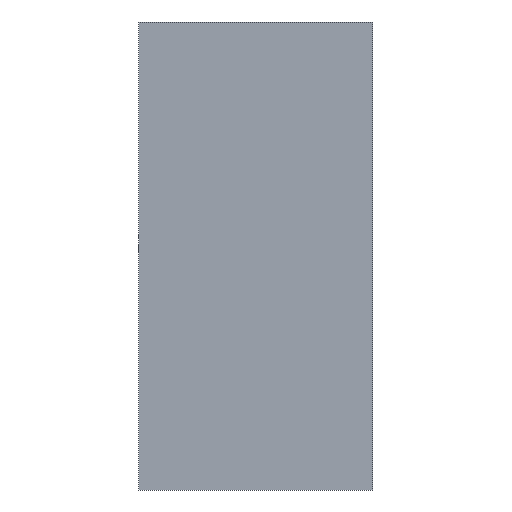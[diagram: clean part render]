
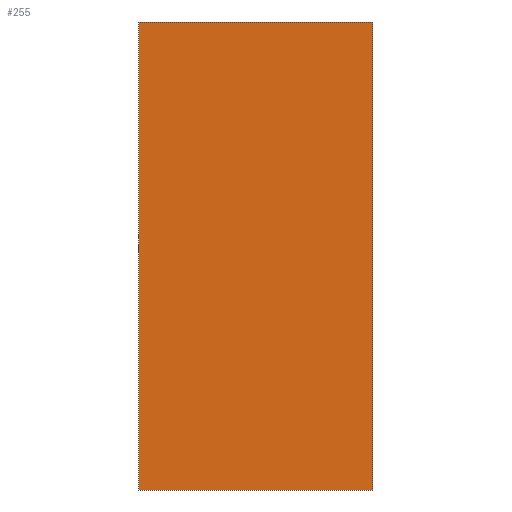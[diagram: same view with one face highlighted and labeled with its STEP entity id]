
A CAD part, front view. The second image highlights one B-rep face of the part: STEP entity #255.
In plain terms, the highlighted planar face has unit normal (0, -1, 0).
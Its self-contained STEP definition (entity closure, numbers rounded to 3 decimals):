
#39 = EDGE_CURVE('',#40,#42,#44,.T.);
#40 = VERTEX_POINT('',#41);
#41 = CARTESIAN_POINT('',(-19.,-32.3,24.5));
#42 = VERTEX_POINT('',#43);
#43 = CARTESIAN_POINT('',(-19.,-32.3,28.5));
#44 = SURFACE_CURVE('',#45,(#49,#61),.PCURVE_S1.);
#45 = LINE('',#46,#47);
#46 = CARTESIAN_POINT('',(-19.,-32.3,24.5));
#47 = VECTOR('',#48,1.);
#48 = DIRECTION('',(0.,0.,1.));
#49 = PCURVE('',#50,#55);
#50 = PLANE('',#51);
#51 = AXIS2_PLACEMENT_3D('',#52,#53,#54);
#52 = CARTESIAN_POINT('',(-19.,-32.3,24.5));
#53 = DIRECTION('',(1.,0.,0.));
#54 = DIRECTION('',(0.,0.,1.));
#55 = DEFINITIONAL_REPRESENTATION('',(#56),#60);
#56 = LINE('',#57,#58);
#57 = CARTESIAN_POINT('',(0.,0.));
#58 = VECTOR('',#59,1.);
#59 = DIRECTION('',(1.,0.));
#60 = ( GEOMETRIC_REPRESENTATION_CONTEXT(2) 
PARAMETRIC_REPRESENTATION_CONTEXT() REPRESENTATION_CONTEXT('2D SPACE',''
  ) );
#61 = PCURVE('',#62,#67);
#62 = PLANE('',#63);
#63 = AXIS2_PLACEMENT_3D('',#64,#65,#66);
#64 = CARTESIAN_POINT('',(-19.,-32.3,24.5));
#65 = DIRECTION('',(0.,1.,0.));
#66 = DIRECTION('',(0.,0.,1.));
#67 = DEFINITIONAL_REPRESENTATION('',(#68),#72);
#68 = LINE('',#69,#70);
#69 = CARTESIAN_POINT('',(0.,0.));
#70 = VECTOR('',#71,1.);
#71 = DIRECTION('',(1.,0.));
#72 = ( GEOMETRIC_REPRESENTATION_CONTEXT(2) 
PARAMETRIC_REPRESENTATION_CONTEXT() REPRESENTATION_CONTEXT('2D SPACE',''
  ) );
#90 = PLANE('',#91);
#91 = AXIS2_PLACEMENT_3D('',#92,#93,#94);
#92 = CARTESIAN_POINT('',(-19.,-32.3,24.5));
#93 = DIRECTION('',(0.,0.,1.));
#94 = DIRECTION('',(1.,0.,0.));
#144 = PLANE('',#145);
#145 = AXIS2_PLACEMENT_3D('',#146,#147,#148);
#146 = CARTESIAN_POINT('',(-19.,-32.3,28.5));
#147 = DIRECTION('',(0.,0.,1.));
#148 = DIRECTION('',(1.,0.,0.));
#159 = EDGE_CURVE('',#160,#162,#164,.T.);
#160 = VERTEX_POINT('',#161);
#161 = CARTESIAN_POINT('',(-17.,-32.3,24.5));
#162 = VERTEX_POINT('',#163);
#163 = CARTESIAN_POINT('',(-17.,-32.3,28.5));
#164 = SURFACE_CURVE('',#165,(#169,#181),.PCURVE_S1.);
#165 = LINE('',#166,#167);
#166 = CARTESIAN_POINT('',(-17.,-32.3,24.5));
#167 = VECTOR('',#168,1.);
#168 = DIRECTION('',(0.,0.,1.));
#169 = PCURVE('',#170,#175);
#170 = PLANE('',#171);
#171 = AXIS2_PLACEMENT_3D('',#172,#173,#174);
#172 = CARTESIAN_POINT('',(-17.,-32.3,24.5));
#173 = DIRECTION('',(1.,0.,0.));
#174 = DIRECTION('',(0.,0.,1.));
#175 = DEFINITIONAL_REPRESENTATION('',(#176),#180);
#176 = LINE('',#177,#178);
#177 = CARTESIAN_POINT('',(0.,0.));
#178 = VECTOR('',#179,1.);
#179 = DIRECTION('',(1.,0.));
#180 = ( GEOMETRIC_REPRESENTATION_CONTEXT(2) 
PARAMETRIC_REPRESENTATION_CONTEXT() REPRESENTATION_CONTEXT('2D SPACE',''
  ) );
#181 = PCURVE('',#62,#182);
#182 = DEFINITIONAL_REPRESENTATION('',(#183),#187);
#183 = LINE('',#184,#185);
#184 = CARTESIAN_POINT('',(0.,2.));
#185 = VECTOR('',#186,1.);
#186 = DIRECTION('',(1.,0.));
#187 = ( GEOMETRIC_REPRESENTATION_CONTEXT(2) 
PARAMETRIC_REPRESENTATION_CONTEXT() REPRESENTATION_CONTEXT('2D SPACE',''
  ) );
#255 = ADVANCED_FACE('',(#256),#62,.F.);
#256 = FACE_BOUND('',#257,.F.);
#257 = EDGE_LOOP('',(#258,#279,#280,#301));
#258 = ORIENTED_EDGE('',*,*,#259,.F.);
#259 = EDGE_CURVE('',#40,#160,#260,.T.);
#260 = SURFACE_CURVE('',#261,(#265,#272),.PCURVE_S1.);
#261 = LINE('',#262,#263);
#262 = CARTESIAN_POINT('',(-19.,-32.3,24.5));
#263 = VECTOR('',#264,1.);
#264 = DIRECTION('',(1.,0.,0.));
#265 = PCURVE('',#62,#266);
#266 = DEFINITIONAL_REPRESENTATION('',(#267),#271);
#267 = LINE('',#268,#269);
#268 = CARTESIAN_POINT('',(0.,0.));
#269 = VECTOR('',#270,1.);
#270 = DIRECTION('',(0.,1.));
#271 = ( GEOMETRIC_REPRESENTATION_CONTEXT(2) 
PARAMETRIC_REPRESENTATION_CONTEXT() REPRESENTATION_CONTEXT('2D SPACE',''
  ) );
#272 = PCURVE('',#90,#273);
#273 = DEFINITIONAL_REPRESENTATION('',(#274),#278);
#274 = LINE('',#275,#276);
#275 = CARTESIAN_POINT('',(0.,0.));
#276 = VECTOR('',#277,1.);
#277 = DIRECTION('',(1.,0.));
#278 = ( GEOMETRIC_REPRESENTATION_CONTEXT(2) 
PARAMETRIC_REPRESENTATION_CONTEXT() REPRESENTATION_CONTEXT('2D SPACE',''
  ) );
#279 = ORIENTED_EDGE('',*,*,#39,.T.);
#280 = ORIENTED_EDGE('',*,*,#281,.T.);
#281 = EDGE_CURVE('',#42,#162,#282,.T.);
#282 = SURFACE_CURVE('',#283,(#287,#294),.PCURVE_S1.);
#283 = LINE('',#284,#285);
#284 = CARTESIAN_POINT('',(-19.,-32.3,28.5));
#285 = VECTOR('',#286,1.);
#286 = DIRECTION('',(1.,0.,0.));
#287 = PCURVE('',#62,#288);
#288 = DEFINITIONAL_REPRESENTATION('',(#289),#293);
#289 = LINE('',#290,#291);
#290 = CARTESIAN_POINT('',(4.,0.));
#291 = VECTOR('',#292,1.);
#292 = DIRECTION('',(0.,1.));
#293 = ( GEOMETRIC_REPRESENTATION_CONTEXT(2) 
PARAMETRIC_REPRESENTATION_CONTEXT() REPRESENTATION_CONTEXT('2D SPACE',''
  ) );
#294 = PCURVE('',#144,#295);
#295 = DEFINITIONAL_REPRESENTATION('',(#296),#300);
#296 = LINE('',#297,#298);
#297 = CARTESIAN_POINT('',(0.,0.));
#298 = VECTOR('',#299,1.);
#299 = DIRECTION('',(1.,0.));
#300 = ( GEOMETRIC_REPRESENTATION_CONTEXT(2) 
PARAMETRIC_REPRESENTATION_CONTEXT() REPRESENTATION_CONTEXT('2D SPACE',''
  ) );
#301 = ORIENTED_EDGE('',*,*,#159,.F.);
